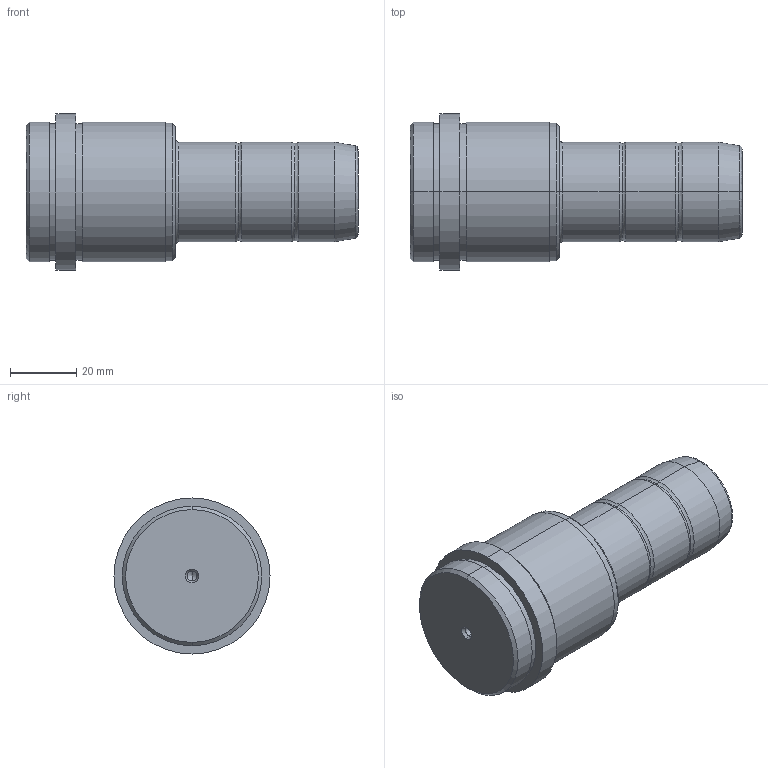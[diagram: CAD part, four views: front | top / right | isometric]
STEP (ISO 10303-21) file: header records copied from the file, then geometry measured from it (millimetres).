
FILE_DESCRIPTION( ( 'STEP AP203' ), '1' );
FILE_NAME( 'C:/Projects/D03 - 30x36x55.step', '2003-01-03T22:45:28', ( ' ' ), ( ' ' ), 'XStep 1.0', ' ', ' ' );
FILE_SCHEMA( ( 'CONFIG_CONTROL_DESIGN' ) );
Length unit declared in the file: metre
Products named in the file (1): 1
Bounding box: 100 x 47 x 47 mm (x, y, z)
Volume: 102400.1 mm3; surface area: 14670.1 mm2
Topology: 1 solids, 1 shells, 56 faces, 113 edges, 64 vertices
Faces by surface type: revolution 36, bspline 20
Entity records: 1691 total; most frequent: CARTESIAN_POINT 513, ORIENTED_EDGE 220, DIRECTION 218, EDGE_CURVE 110, AXIS2_PLACEMENT_3D 73, CIRCLE 72, EDGE_LOOP 64, VERTEX_POINT 64
